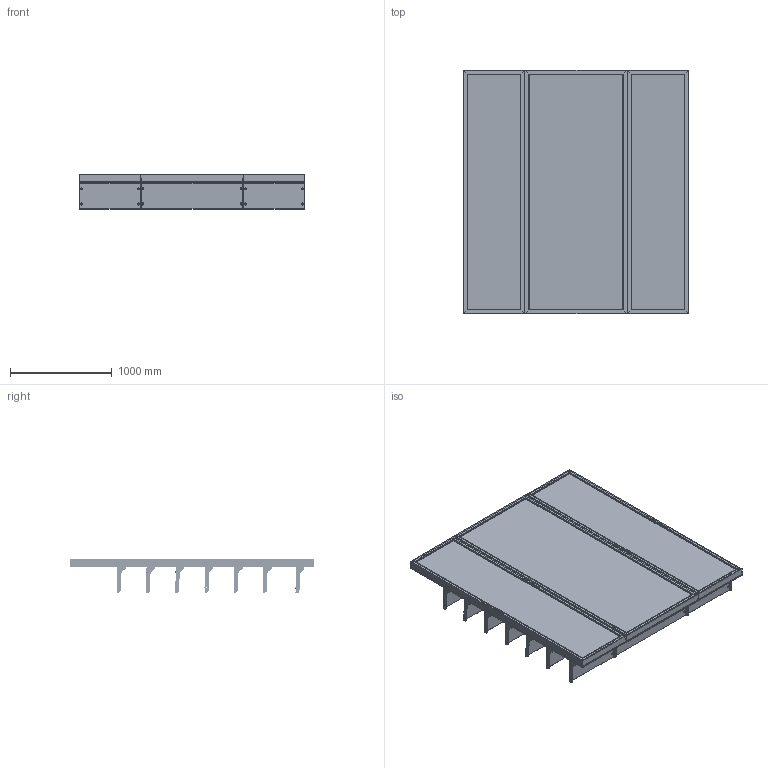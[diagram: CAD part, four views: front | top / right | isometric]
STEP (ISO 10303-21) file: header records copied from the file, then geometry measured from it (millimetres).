
FILE_DESCRIPTION (( 'STEP AP203' ), '1' );
FILE_NAME ('Premium Apothecary Salon Retail Display - Glass Shelving.STEP', '2026-03-30T13:32:05', ( '' ), ( '' ), 'SwSTEP 2.0', 'SolidWorks 2025', '' );
FILE_SCHEMA (( 'CONFIG_CONTROL_DESIGN' ));
Length unit declared in the file: millimetre
Products named in the file (17): 0001-31-SA28 - 610W Glass Shelf_Assem5; Wide Illuminated Salon Retail Display - Glass Shelving_Assem1; 0001-31-SA31 - 1005W Glass Shelf_Assem5; 0001-31-SA31 - 1005W Glass Shelf.STEP; 0001-31-GA01 - 610W Slotted Upright; Premium Apothecary Salon Retail Display - Glass Shelving; 0001-31-124.STEP; 0001-31-SA29.STEP; 0001-31-114.STEP; 0001-31-SA30.STEP; 0001-31-GA10 - 1005W Slotted upbright; 0001-31-115.STEP; 0000-31-113.STEP; Narrow Illuminated Beauty Merchandising Display - Glass Shelving_a; 0001-31-123.STEP; 0001-31-132.STEP; 0001-31-SA28 - 610W Glass Shelf.STEP
Assembly tree (55 placements, depth 6):
  Premium Apothecary Salon Retail Display - Glass Shelving
    Narrow Illuminated Beauty Merchandising Display - Glass Shelving_a  x2
      0001-31-GA01 - 610W Slotted Upright
      0001-31-SA28 - 610W Glass Shelf_Assem5
        0001-31-SA28 - 610W Glass Shelf.STEP
          0001-31-SA29.STEP
            0000-31-113.STEP
            0001-31-114.STEP  x2
          0001-31-SA30.STEP
            0000-31-113.STEP
            0001-31-114.STEP  x2
          0001-31-115.STEP
          0001-31-123.STEP  x8
          0001-31-124.STEP  x4
    Wide Illuminated Salon Retail Display - Glass Shelving_Assem1
      0001-31-GA10 - 1005W Slotted upbright
      0001-31-SA31 - 1005W Glass Shelf_Assem5  x5
        0001-31-SA31 - 1005W Glass Shelf.STEP
          0001-31-SA29.STEP
            0000-31-113.STEP
            0001-31-114.STEP  x2
          0001-31-SA30.STEP
            0000-31-113.STEP
            0001-31-114.STEP  x2
          0001-31-132.STEP
          0001-31-124.STEP  x4
          0001-31-123.STEP  x8
Bounding box: 2225.24 x 2400 x 340.44 mm (x, y, z)
Volume: 49045962 mm3; surface area: 35954675.3 mm2
Topology: 379 solids, 379 shells, 7362 faces, 18876 edges, 12128 vertices
Faces by surface type: plane 4824, cylinder 2234, cone 304
Entity records: 46092 total; most frequent: CARTESIAN_POINT 8396, ORIENTED_EDGE 7938, DIRECTION 6317, EDGE_CURVE 3969, LINE 3687, VECTOR 3687, VERTEX_POINT 2626, EDGE_LOOP 1423
